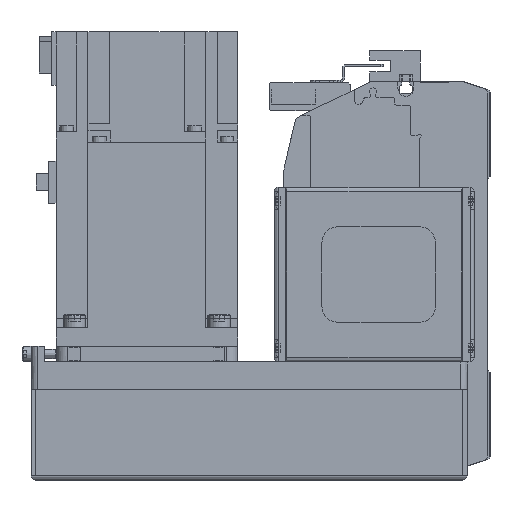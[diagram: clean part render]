
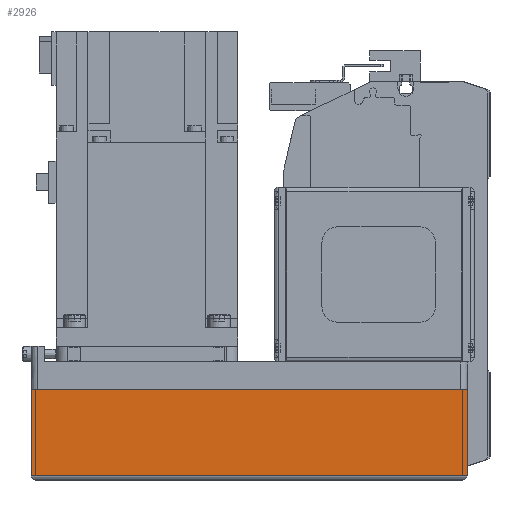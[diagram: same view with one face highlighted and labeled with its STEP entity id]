
A CAD part, left-side view. The second image highlights one B-rep face of the part: STEP entity #2926.
In plain terms, the highlighted planar face has unit normal (-1, 0, 0) as drawn and (0, -1, 0) by its records, which use the part's own axes.
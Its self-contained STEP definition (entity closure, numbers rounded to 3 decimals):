
#2926 = ADVANCED_FACE( '', ( #6386 ), #6387, .T. );
#6386 = FACE_OUTER_BOUND( '', #10252, .T. );
#6387 = PLANE( '', #10253 );
#10252 = EDGE_LOOP( '', ( #18619, #18620, #18621, #18622 ) );
#10253 = AXIS2_PLACEMENT_3D( '', #18623, #18624, #18625 );
#18619 = ORIENTED_EDGE( '', *, *, #24857, .F. );
#18620 = ORIENTED_EDGE( '', *, *, #24142, .F. );
#18621 = ORIENTED_EDGE( '', *, *, #24276, .T. );
#18622 = ORIENTED_EDGE( '', *, *, #24858, .T. );
#18623 = CARTESIAN_POINT( '', ( -192., -40., -12.1 ) );
#18624 = DIRECTION( '', ( 0., -1., 0. ) );
#18625 = DIRECTION( '', ( 0., 0., -1. ) );
#24142 = EDGE_CURVE( '', #25498, #29709, #29710, .T. );
#24276 = EDGE_CURVE( '', #25498, #28728, #29882, .T. );
#24857 = EDGE_CURVE( '', #29709, #30625, #30626, .T. );
#24858 = EDGE_CURVE( '', #28728, #30625, #30627, .T. );
#25498 = VERTEX_POINT( '', #31355 );
#28728 = VERTEX_POINT( '', #36662 );
#29709 = VERTEX_POINT( '', #38298 );
#29710 = LINE( '', #38299, #38300 );
#29882 = LINE( '', #38554, #38555 );
#30625 = VERTEX_POINT( '', #39625 );
#30626 = LINE( '', #39626, #39627 );
#30627 = LINE( '', #39628, #39629 );
#31355 = CARTESIAN_POINT( '', ( -192., -40., -12.1 ) );
#36662 = CARTESIAN_POINT( '', ( -192., -40., -50. ) );
#38298 = CARTESIAN_POINT( '', ( 0., -40., -12.1 ) );
#38299 = CARTESIAN_POINT( '', ( -192., -40., -12.1 ) );
#38300 = VECTOR( '', #43867, 1000. );
#38554 = CARTESIAN_POINT( '', ( -192., -40., -12.1 ) );
#38555 = VECTOR( '', #44036, 1000. );
#39625 = CARTESIAN_POINT( '', ( 0., -40., -50. ) );
#39626 = CARTESIAN_POINT( '', ( 0., -40., -12.1 ) );
#39627 = VECTOR( '', #44626, 1000. );
#39628 = CARTESIAN_POINT( '', ( -192., -40., -50. ) );
#39629 = VECTOR( '', #44627, 1000. );
#43867 = DIRECTION( '', ( 1., 0., 0. ) );
#44036 = DIRECTION( '', ( 0., 0., -1. ) );
#44626 = DIRECTION( '', ( 0., 0., -1. ) );
#44627 = DIRECTION( '', ( 1., 0., 0. ) );
